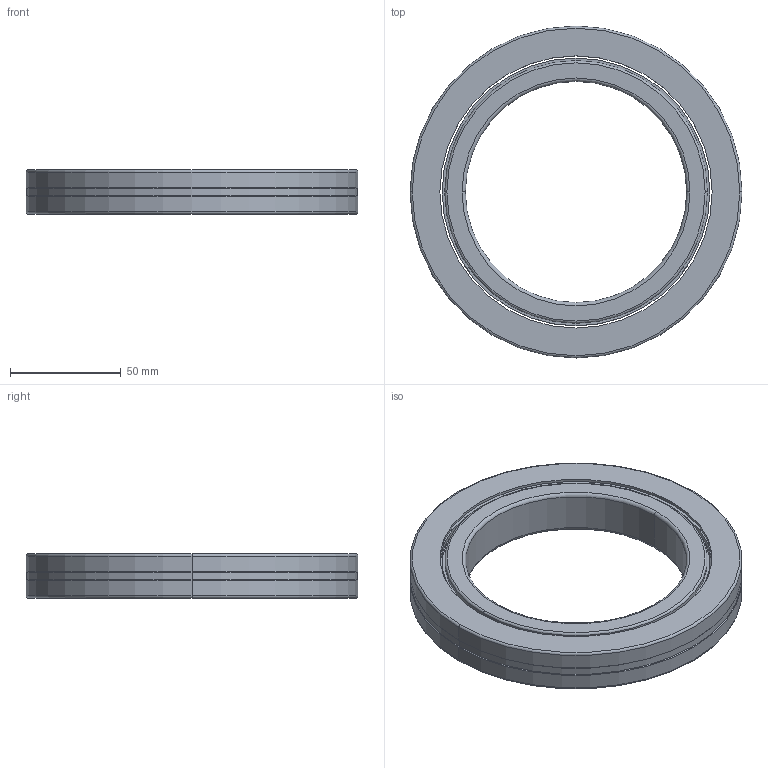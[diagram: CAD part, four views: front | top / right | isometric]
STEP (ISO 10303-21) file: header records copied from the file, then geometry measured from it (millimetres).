
FILE_DESCRIPTION((''),'2;1');
FILE_NAME('CRBH10020','2017-07-28T',('Administrator'),(''),'PRO/ENGINEER BY PARAMETRIC TECHNOLOGY CORPORATION, 2010180','PRO/ENGINEER BY PARAMETRIC TECHNOLOGY CORPORATION, 2010180','');
FILE_SCHEMA(('AUTOMOTIVE_DESIGN_CC2 { 1 2 10303 214 -1 1 5 2 }'));
Length unit declared in the file: millimetre
Products named in the file (1): CRBH10020
Bounding box: 150 x 150 x 20 mm (x, y, z)
Volume: 161401.7 mm3; surface area: 56278.7 mm2
Topology: 2 solids, 2 shells, 62 faces, 1625 edges, 1575 vertices
Faces by surface type: cylinder 28, torus 12, cone 12, plane 10
Entity records: 15656 total; most frequent: DIRECTION 1841, CARTESIAN_POINT 1760, PRESENTATION_STYLE_ASSIGNMENT 1559, STYLED_ITEM 1559, VECTOR 1535, LINE 1535, CURVE_STYLE 1502, TRIMMED_CURVE 1501
